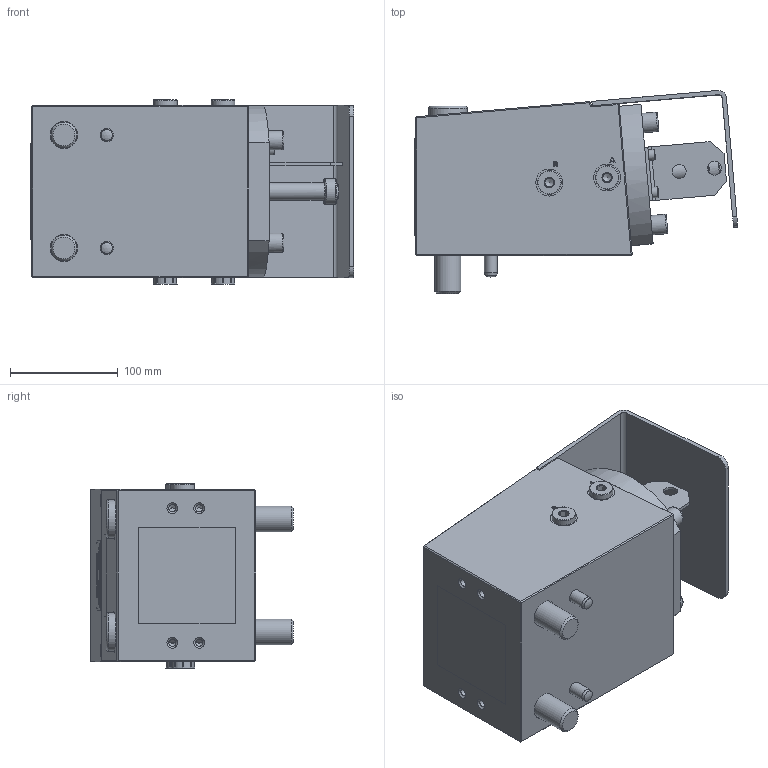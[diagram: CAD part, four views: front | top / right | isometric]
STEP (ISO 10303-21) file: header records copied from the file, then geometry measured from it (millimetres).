
FILE_DESCRIPTION(/* description */ (''),/* implementation_level */ '2;1');
FILE_NAME(/* name */ 'Z:\Standard products\1. QMC Clamping Systems\3. MOD - Mold clamp\MOD1010\MOD1010-400-RH-300-P700(M24) (21-12-17).stp',/* time_stamp */ '2017-12-21T12:41:17+01:00',/* author */ ('breep'),/* organization */ (''),/* preprocessor_version */ 'ST-DEVELOPER v16.1',/* originating_system */ 'Autodesk Inventor 2016',/* authorisation */ '');
FILE_SCHEMA (('AUTOMOTIVE_DESIGN { 1 0 10303 214 3 1 1 }'));
Products named in the file (1): Part3
Bounding box: 300.82 x 188.53 x 171.1 mm (x, y, z)
Volume: 266006.4 mm3; surface area: 498274 mm2
Topology: 23 solids, 26 shells, 3841 faces, 10182 edges, 6743 vertices
Faces by surface type: plane 1910, bspline 1489, cylinder 291, cone 111, torus 34, sphere 6
Full cylindrical faces by diameter (mm): 0.82 x1, 1.04 x1, 3.242 x1, 4 x7, 4.134 x2, 4.917 x6, 4.918 x2, 5 x2, 6 x6, 6.3 x1, 6.4 x2, 6.647 x4, 7 x3, 8 x2, 10 x2, 10.106 x4, 12 x6, 12.1 x2, 12.2 x2, 13 x8, 14.376 x1, 14.5 x2, 14.9 x2, 14.95 x6, 16 x3, 16.03 x1, 16.1 x1, 16.25 x1, 16.3 x2, 16.4 x1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
Entity records: 126209 total; most frequent: CARTESIAN_POINT 38764, ORIENTED_EDGE 19524, DIRECTION 12082, EDGE_CURVE 9759, VERTEX_POINT 6602, LINE 5990, VECTOR 5990, EDGE_LOOP 4520
